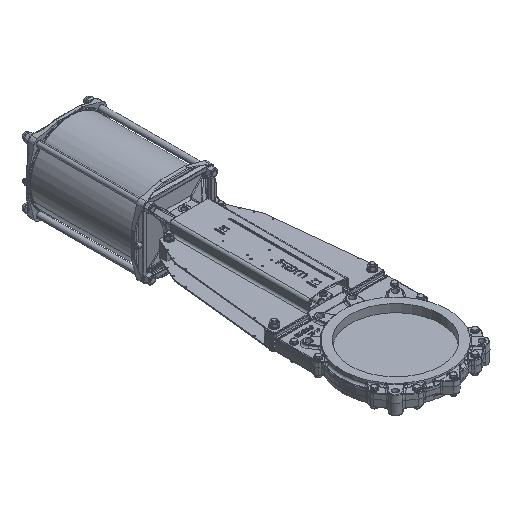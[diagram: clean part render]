
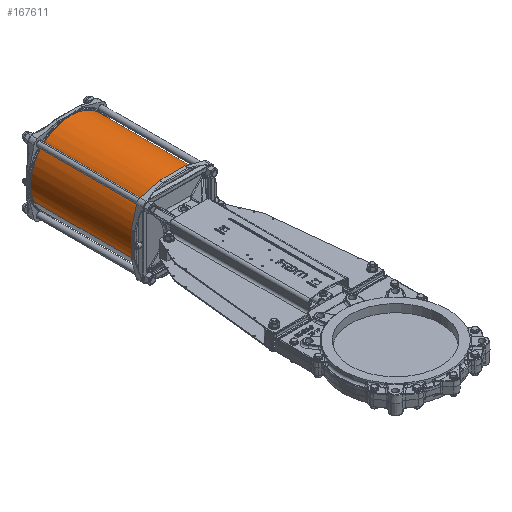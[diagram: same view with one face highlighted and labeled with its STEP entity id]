
A CAD part, isometric view. The second image highlights one B-rep face of the part: STEP entity #167611.
In plain terms, the highlighted cylindrical face has radius 156 mm (diameter 312 mm), a partial arc.
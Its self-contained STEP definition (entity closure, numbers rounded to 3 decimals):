
#3167 = VERTEX_POINT ( 'NONE', #93584 ) ;
#10940 = EDGE_CURVE ( 'NONE', #3167, #49629, #11013, .T. ) ;
#11013 = CIRCLE ( 'NONE', #40744, 156. ) ;
#13208 = EDGE_CURVE ( 'NONE', #3167, #14216, #49332, .T. ) ;
#13566 = EDGE_CURVE ( 'NONE', #49629, #32340, #38143, .T. ) ;
#14216 = VERTEX_POINT ( 'NONE', #193752 ) ;
#21279 = ORIENTED_EDGE ( 'NONE', *, *, #36715, .F. ) ;
#27582 = DIRECTION ( 'NONE',  ( 0.912, 0., 0.41 ) ) ;
#32340 = VERTEX_POINT ( 'NONE', #67939 ) ;
#32727 = VECTOR ( 'NONE', #127981, 1000. ) ;
#34345 = CARTESIAN_POINT ( 'NONE',  ( -142.311, 1269., -64.153 ) ) ;
#34792 = DIRECTION ( 'NONE',  ( 0., -1., 0. ) ) ;
#36715 = EDGE_CURVE ( 'NONE', #14216, #32340, #87357, .T. ) ;
#38143 = LINE ( 'NONE', #213632, #32727 ) ;
#40744 = AXIS2_PLACEMENT_3D ( 'NONE', #77244, #197452, #94494 ) ;
#43911 = VECTOR ( 'NONE', #94224, 1000. ) ;
#49332 = LINE ( 'NONE', #146071, #43911 ) ;
#49629 = VERTEX_POINT ( 'NONE', #34345 ) ;
#61492 = CARTESIAN_POINT ( 'NONE',  ( 0., 1061.019, -0.25 ) ) ;
#67939 = CARTESIAN_POINT ( 'NONE',  ( -142.311, 868., -64.153 ) ) ;
#77244 = CARTESIAN_POINT ( 'NONE',  ( 0., 1269., -0.25 ) ) ;
#87357 = CIRCLE ( 'NONE', #128155, 156. ) ;
#93584 = CARTESIAN_POINT ( 'NONE',  ( 142.311, 1269., 63.653 ) ) ;
#94224 = DIRECTION ( 'NONE',  ( 0., -1., 0. ) ) ;
#94494 = DIRECTION ( 'NONE',  ( 0., 0., 1. ) ) ;
#96626 = CYLINDRICAL_SURFACE ( 'NONE', #100695, 156. ) ;
#100695 = AXIS2_PLACEMENT_3D ( 'NONE', #61492, #147206, #27582 ) ;
#127981 = DIRECTION ( 'NONE',  ( 0., -1., 0. ) ) ;
#128155 = AXIS2_PLACEMENT_3D ( 'NONE', #137816, #34792, #155166 ) ;
#137816 = CARTESIAN_POINT ( 'NONE',  ( 0., 868., -0.25 ) ) ;
#146071 = CARTESIAN_POINT ( 'NONE',  ( 142.311, 1061.019, 63.653 ) ) ;
#147206 = DIRECTION ( 'NONE',  ( 0., -1., 0. ) ) ;
#150298 = ORIENTED_EDGE ( 'NONE', *, *, #13208, .F. ) ;
#150507 = ORIENTED_EDGE ( 'NONE', *, *, #13566, .T. ) ;
#150974 = EDGE_LOOP ( 'NONE', ( #185679, #150507, #21279, #150298 ) ) ;
#155166 = DIRECTION ( 'NONE',  ( 0.912, 0., 0.41 ) ) ;
#158602 = FACE_OUTER_BOUND ( 'NONE', #150974, .T. ) ;
#167611 = ADVANCED_FACE ( 'NONE', ( #158602 ), #96626, .T. ) ;
#185679 = ORIENTED_EDGE ( 'NONE', *, *, #10940, .T. ) ;
#193752 = CARTESIAN_POINT ( 'NONE',  ( 142.311, 868., 63.653 ) ) ;
#197452 = DIRECTION ( 'NONE',  ( 0., -1., 0. ) ) ;
#213632 = CARTESIAN_POINT ( 'NONE',  ( -142.311, 1061.019, -64.153 ) ) ;
